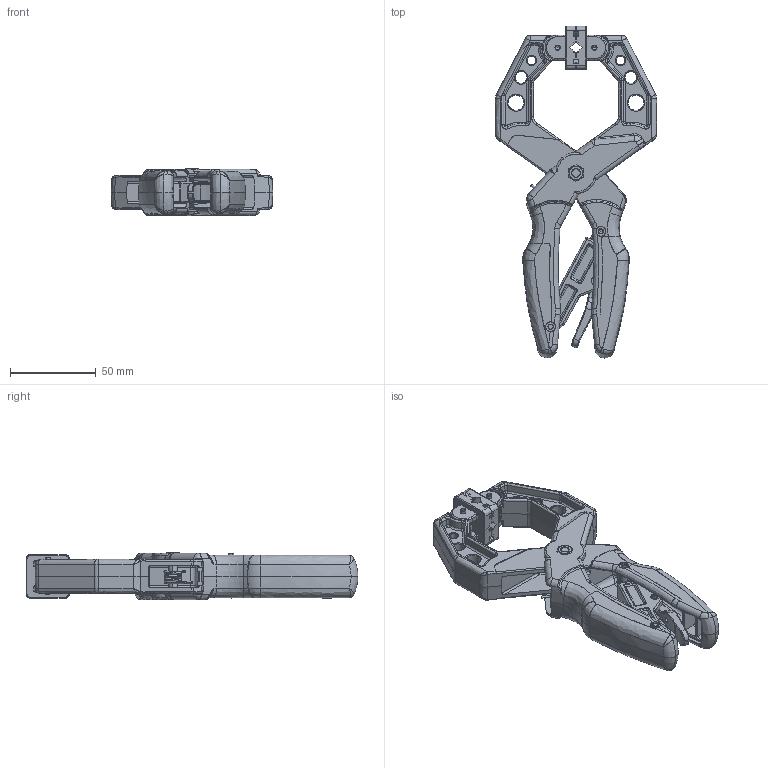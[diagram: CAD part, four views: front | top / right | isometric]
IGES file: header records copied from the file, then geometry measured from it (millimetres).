
Start section: SolidWorks IGES file using analytic representation for surfaces
Global section: file name: C:\Users\user\Desktop\7Y&9Y-IGS\7Y CLAMP-new.IGS; native system: SolidWorks 2014; preprocessor: SolidWorks 2014; author: user; date: 190403.110747; units: millimetre
Bounding box: 94.44 x 194.11 x 27.54 mm (x, y, z)
Surface area: 77698.1 mm2 (no closed solid volume)
Topology: 0 solids, 0 shells, 2359 faces, 20467 edges, 20396 vertices
Faces by surface type: bspline 1472, revolution 887
